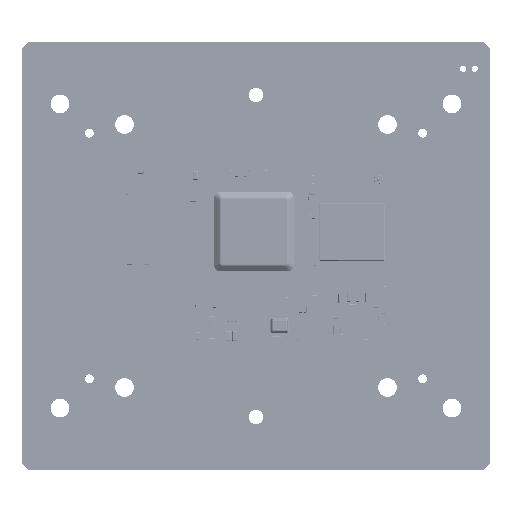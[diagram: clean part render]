
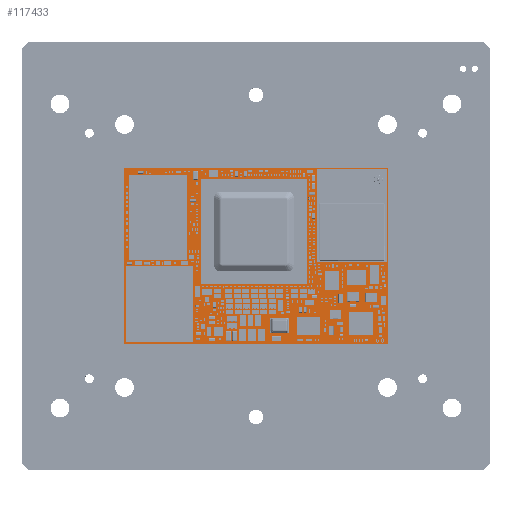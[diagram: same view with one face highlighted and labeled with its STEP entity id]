
A CAD part, top view. The second image highlights one B-rep face of the part: STEP entity #117433.
In plain terms, the highlighted planar face has unit normal (0, 0, 1).
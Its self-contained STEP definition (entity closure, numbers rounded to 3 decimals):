
#49256 = LINE ( 'NONE', #688642, #870940 ) ;
#74113 = LINE ( 'NONE', #298769, #905685 ) ;
#113385 = DIRECTION ( 'NONE',  ( 1., 0., 0. ) ) ;
#117433 = ADVANCED_FACE ( 'NONE', ( #766641 ), #970373, .T. ) ;
#163002 = CARTESIAN_POINT ( 'NONE',  ( 62.5, 21.5, 1.265 ) ) ;
#196609 = CARTESIAN_POINT ( 'NONE',  ( 62.5, 51.5, 1.265 ) ) ;
#212307 = EDGE_LOOP ( 'NONE', ( #950411, #484844, #258101, #897948 ) ) ;
#258101 = ORIENTED_EDGE ( 'NONE', *, *, #1101630, .T. ) ;
#274443 = LINE ( 'NONE', #196609, #1061672 ) ;
#298769 = CARTESIAN_POINT ( 'NONE',  ( 17.5, 21.5, 1.265 ) ) ;
#365491 = LINE ( 'NONE', #450136, #1049152 ) ;
#404245 = DIRECTION ( 'NONE',  ( 1., 0., 0. ) ) ;
#450136 = CARTESIAN_POINT ( 'NONE',  ( 17.5, 51.5, 1.265 ) ) ;
#457064 = DIRECTION ( 'NONE',  ( 0., -1., 0. ) ) ;
#473295 = AXIS2_PLACEMENT_3D ( 'NONE', #1293433, #541955, #113385 ) ;
#484844 = ORIENTED_EDGE ( 'NONE', *, *, #1354994, .T. ) ;
#528848 = VERTEX_POINT ( 'NONE', #1008110 ) ;
#541955 = DIRECTION ( 'NONE',  ( 0., 0., 1. ) ) ;
#564882 = CARTESIAN_POINT ( 'NONE',  ( 17.5, 51.5, 1.265 ) ) ;
#688642 = CARTESIAN_POINT ( 'NONE',  ( 62.5, 21.5, 1.265 ) ) ;
#766641 = FACE_OUTER_BOUND ( 'NONE', #212307, .T. ) ;
#809358 = EDGE_CURVE ( 'NONE', #1160894, #528848, #365491, .T. ) ;
#840830 = CARTESIAN_POINT ( 'NONE',  ( 62.5, 51.5, 1.265 ) ) ;
#870940 = VECTOR ( 'NONE', #997789, 1000. ) ;
#897948 = ORIENTED_EDGE ( 'NONE', *, *, #809358, .T. ) ;
#905685 = VECTOR ( 'NONE', #404245, 1000. ) ;
#950411 = ORIENTED_EDGE ( 'NONE', *, *, #977229, .T. ) ;
#970373 = PLANE ( 'NONE',  #473295 ) ;
#977229 = EDGE_CURVE ( 'NONE', #528848, #1057647, #74113, .T. ) ;
#997789 = DIRECTION ( 'NONE',  ( 0., 1., 0. ) ) ;
#1008110 = CARTESIAN_POINT ( 'NONE',  ( 17.5, 21.5, 1.265 ) ) ;
#1049152 = VECTOR ( 'NONE', #457064, 1000. ) ;
#1057647 = VERTEX_POINT ( 'NONE', #163002 ) ;
#1061672 = VECTOR ( 'NONE', #1243625, 1000. ) ;
#1098282 = VERTEX_POINT ( 'NONE', #840830 ) ;
#1101630 = EDGE_CURVE ( 'NONE', #1098282, #1160894, #274443, .T. ) ;
#1160894 = VERTEX_POINT ( 'NONE', #564882 ) ;
#1243625 = DIRECTION ( 'NONE',  ( -1., 0., 0. ) ) ;
#1293433 = CARTESIAN_POINT ( 'NONE',  ( 40., 36.5, 1.265 ) ) ;
#1354994 = EDGE_CURVE ( 'NONE', #1057647, #1098282, #49256, .T. ) ;
